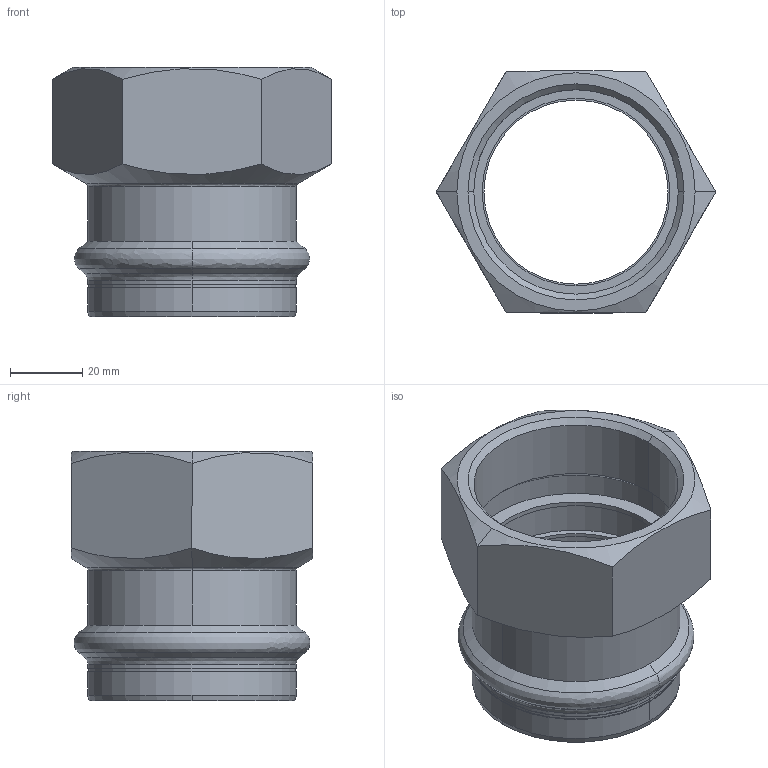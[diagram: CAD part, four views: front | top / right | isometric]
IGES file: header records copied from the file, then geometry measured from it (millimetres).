
Start section: Elysium IGES Interface
Global section: file name: F:\3d modellen sudo\S-Pr VP\SP6270GV\6270GVW542.igs; native system: CoCreate Modeling 17.00A  17-Jun-2010; preprocessor: CoCreate IGES_3D V2.2; author: Unknown; organization: Unknown; date: 20130128.115032; units: millimetre
Bounding box: 77.36 x 67 x 69.02 mm (x, y, z)
Volume: 55972.4 mm3; surface area: 30285.1 mm2
Topology: 1 solids, 1 shells, 63 faces, 140 edges, 84 vertices
Faces by surface type: bspline 63
